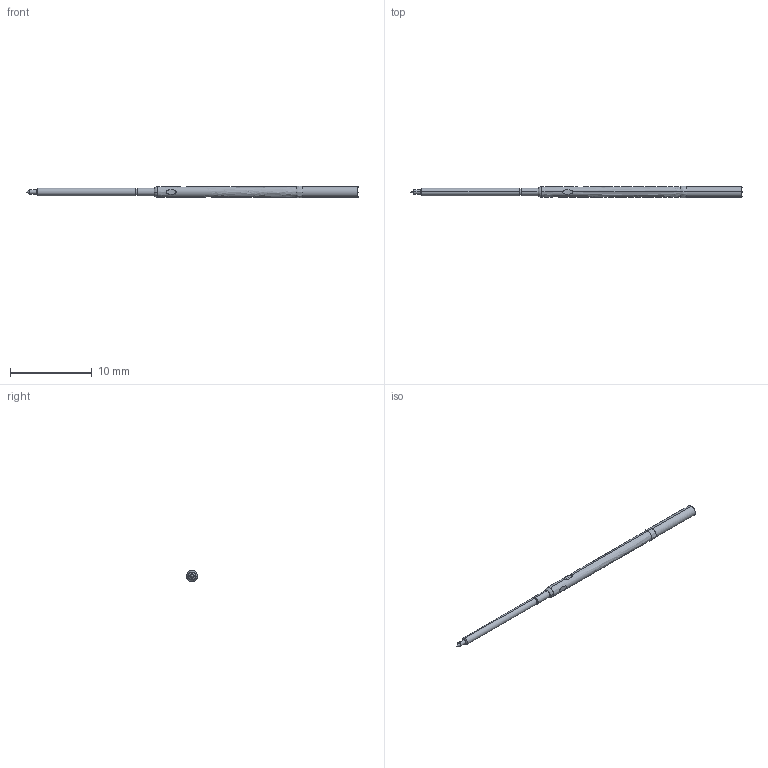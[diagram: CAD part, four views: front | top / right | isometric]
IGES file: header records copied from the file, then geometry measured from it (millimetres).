
Start section: SolidWorks IGES file using analytic representation for surfaces
Global section: file name: Z:\probe solid model mockups\Solidworks models\DER-075\DER-075B RECD.IGS; native system: SolidWorks 2006 by SolidWorks Corporation; preprocessor: SolidWorks 2006 by SolidWorks Corporation; author: tsakatani; date: 071218.084806; units: inch
Bounding box: 40.64 x 1.46 x 1.47 mm (x, y, z)
Surface area: 231.4 mm2 (no closed solid volume)
Topology: 0 solids, 0 shells, 38 faces, 378 edges, 376 vertices
Faces by surface type: revolution 31, bspline 7
